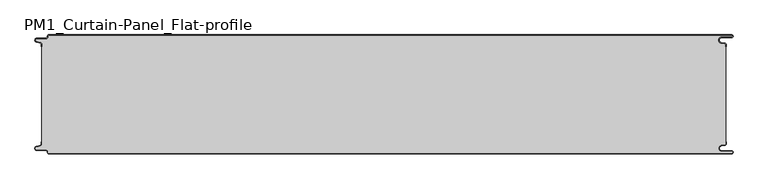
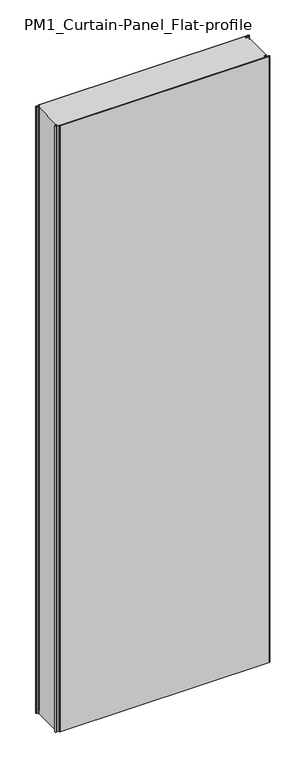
"""IFC4 building model written with IfcOpenShell, lengths in millimetres: plate geometry, PM1_Curtain-Panel_Flat-profile : ACH_PM1_Acoustic-Sectioning-Panel_200M."""

from ifc_helpers import new_model, si_unit, point, frame, frame_2d, origin, origin_with_axes, place, context, project, spatial, polyline, circle_curve, trimmed, segment, composite_curve, outline, extrude, source, transform, mapped, element, save
from ifc_brep_helpers import plane_surface, cylinder_surface, revolved_surface, advanced_brep


def pm1_curtain_panel_flat_profile_ed04c103(model_context):
    return source(origin(), model_context, "Body", "SolidModel", [
        advanced_brep(
        [(583.1, 0.0, 3500.0), (-562.4, 0.0, 3500.0), (-564.4, -2.0, 3500.0), (-564.4, -3.4, 3500.0), (-566.4, -5.4, 3500.0), (-581.9, -5.4, 3500.0), (-582.7098239, -12.5077322, 3500.0), (-576.5500979, -13.929817, 3500.0), (-575.0, -15.878557, 3500.0), (-575.0, -20.0, 3500.0), (-574.2, -20.0, 3500.0), (-574.2, -15.878557, 3500.0), (-576.370137, -13.1503208, 3500.0), (-582.529863, -11.728236, 3500.0), (-581.9, -6.2, 3500.0), (-566.4, -6.2, 3500.0), (-563.6, -3.4, 3500.0), (-563.6, -2.0, 3500.0), (-562.4, -0.8, 3500.0), (583.1, -0.8, 3500.0), (583.1, -4.2, 3500.0), (566.1, -4.2, 3500.0), (565.266489, -13.7270773, 3500.0), (571.7125666, -14.8636942, 3500.0), (573.2, -16.636348, 3500.0), (573.2, -20.0, 3500.0), (574.0, -20.0, 3500.0), (574.0, -16.636348, 3500.0), (571.8514851, -14.0758478, 3500.0), (565.4054075, -12.9392309, 3500.0), (566.1, -5.0, 3500.0), (583.1, -5.0, 3500.0), (585.6, -2.5, 3500.0), (-562.4, 0.0, 0.0), (583.1, 0.0, 0.0), (585.6, -2.5, 0.0), (583.1, -5.0, 0.0), (566.1, -5.0, 0.0), (565.4054075, -12.939231, 0.0), (571.8514851, -14.075848, 0.0), (574.0, -16.636348, 0.0), (574.0, -20.0, 0.0), (573.2, -20.0, 0.0), (573.2, -16.636348, 0.0), (571.7125666, -14.863694, 0.0), (565.266489, -13.7270771, 0.0), (566.1, -4.2, 0.0), (583.1, -4.2, 0.0), (583.1, -0.8, 0.0), (-562.4, -0.8, 0.0), (-563.6, -2.0, 0.0), (-563.6, -3.4, 0.0), (-566.4, -6.2, 0.0), (-581.9, -6.2, 0.0), (-582.529863, -11.7282362, 0.0), (-576.370137, -13.150321, 0.0), (-574.2, -15.878557, 0.0), (-574.2, -20.0, 0.0), (-575.0, -20.0, 0.0), (-575.0, -15.878557, 0.0), (-576.5500978, -13.9298169, 0.0), (-582.7098239, -12.507732, 0.0), (-581.9, -5.4, 0.0), (-566.4, -5.4, 0.0), (-564.4, -3.4, 0.0), (-564.4, -2.0, 0.0)],
        [
            (0, 1),
            (1, 2, circle_curve(frame((-562.4, -2.0, 3500.0), z_axis=(0.0, 0.0, 1.0), x_axis=(1.0, 0.0, 0.0)), 2.0)),
            (2, 3),
            (3, 4, circle_curve(frame((-566.4, -3.4, 3500.0), z_axis=(0.0, 0.0, -1.0), x_axis=(1.0, 0.0, 0.0)), 2.0)),
            (4, 5),
            (5, 6, circle_curve(frame((-581.9, -9.0, 3500.0), z_axis=(0.0, 0.0, 1.0), x_axis=(1.0, 0.0, 0.0)), 3.6)),
            (6, 7),
            (7, 8, circle_curve(frame((-577.0, -15.878557, 3500.0), z_axis=(0.0, 0.0, -1.0), x_axis=(1.0, 0.0, 0.0)), 2.0)),
            (8, 9),
            (9, 10),
            (10, 11),
            (11, 12, circle_curve(frame((-577.0, -15.878557, 3500.0), z_axis=(0.0, 0.0, 1.0), x_axis=(1.0, 0.0, 0.0)), 2.8)),
            (12, 13),
            (13, 14, circle_curve(frame((-581.9, -9.0, 3500.0), z_axis=(0.0, 0.0, -1.0), x_axis=(1.0, 0.0, 0.0)), 2.8)),
            (14, 15),
            (15, 16, circle_curve(frame((-566.4, -3.4, 3500.0), z_axis=(0.0, 0.0, 1.0), x_axis=(1.0, 0.0, 0.0)), 2.8)),
            (16, 17),
            (17, 18, circle_curve(frame((-562.4, -2.0, 3500.0), z_axis=(0.0, 0.0, -1.0), x_axis=(1.0, 0.0, 0.0)), 1.2)),
            (18, 19),
            (19, 20, circle_curve(frame((583.1, -2.5, 3500.0), z_axis=(0.0, 0.0, -1.0), x_axis=(1.0, 0.0, 0.0)), 1.7)),
            (20, 21),
            (21, 22, circle_curve(frame((566.1, -9.0, 3500.0), z_axis=(0.0, 0.0, 1.0), x_axis=(1.0, 0.0, 0.0)), 4.8)),
            (22, 23),
            (23, 24, circle_curve(frame((571.4, -16.636348, 3500.0), z_axis=(0.0, 0.0, -1.0), x_axis=(1.0, 0.0, 0.0)), 1.8)),
            (24, 25),
            (25, 26),
            (26, 27),
            (27, 28, circle_curve(frame((571.4, -16.636348, 3500.0), z_axis=(0.0, 0.0, 1.0), x_axis=(1.0, 0.0, 0.0)), 2.6)),
            (28, 29),
            (29, 30, circle_curve(frame((566.1, -9.0, 3500.0), z_axis=(0.0, 0.0, -1.0), x_axis=(1.0, 0.0, 0.0)), 4.0)),
            (30, 31),
            (31, 32, circle_curve(frame((583.1, -2.5, 3500.0), z_axis=(0.0, 0.0, 1.0), x_axis=(1.0, 0.0, 0.0)), 2.5)),
            (32, 0, circle_curve(frame((583.1, -2.5, 3500.0), z_axis=(0.0, 0.0, 1.0), x_axis=(1.0, 0.0, 0.0)), 2.5)),
            (33, 34),
            (34, 35, circle_curve(frame((583.1, -2.5, 0.0), z_axis=(0.0, 0.0, -1.0), x_axis=(1.0, 0.0, 0.0)), 2.5)),
            (35, 36, circle_curve(frame((583.1, -2.5, 0.0), z_axis=(0.0, 0.0, -1.0), x_axis=(1.0, 0.0, 0.0)), 2.5)),
            (36, 37),
            (37, 38, circle_curve(frame((566.1, -9.0, 0.0), z_axis=(0.0, 0.0, 1.0), x_axis=(1.0, 0.0, 0.0)), 4.0)),
            (38, 39),
            (39, 40, circle_curve(frame((571.4, -16.636348, 0.0), z_axis=(0.0, 0.0, -1.0), x_axis=(1.0, 0.0, 0.0)), 2.6)),
            (40, 41),
            (41, 42),
            (42, 43),
            (43, 44, circle_curve(frame((571.4, -16.636348, 0.0), z_axis=(0.0, 0.0, 1.0), x_axis=(1.0, 0.0, 0.0)), 1.8)),
            (44, 45),
            (45, 46, circle_curve(frame((566.1, -9.0, 0.0), z_axis=(0.0, 0.0, -1.0), x_axis=(1.0, 0.0, 0.0)), 4.8)),
            (46, 47),
            (47, 48, circle_curve(frame((583.1, -2.5, 0.0), z_axis=(0.0, 0.0, 1.0), x_axis=(1.0, 0.0, 0.0)), 1.7)),
            (48, 49),
            (49, 50, circle_curve(frame((-562.4, -2.0, 0.0), z_axis=(0.0, 0.0, 1.0), x_axis=(1.0, 0.0, 0.0)), 1.2)),
            (50, 51),
            (51, 52, circle_curve(frame((-566.4, -3.4, 0.0), z_axis=(0.0, 0.0, -1.0), x_axis=(1.0, 0.0, 0.0)), 2.8)),
            (52, 53),
            (53, 54, circle_curve(frame((-581.9, -9.0, 0.0), z_axis=(0.0, 0.0, 1.0), x_axis=(1.0, 0.0, 0.0)), 2.8)),
            (54, 55),
            (55, 56, circle_curve(frame((-577.0, -15.878557, 0.0), z_axis=(0.0, 0.0, -1.0), x_axis=(1.0, 0.0, 0.0)), 2.8)),
            (56, 57),
            (57, 58),
            (58, 59),
            (59, 60, circle_curve(frame((-577.0, -15.878557, 0.0), z_axis=(0.0, 0.0, 1.0), x_axis=(1.0, 0.0, 0.0)), 2.0)),
            (60, 61),
            (61, 62, circle_curve(frame((-581.9, -9.0, 0.0), z_axis=(0.0, 0.0, -1.0), x_axis=(1.0, 0.0, 0.0)), 3.6)),
            (62, 63),
            (63, 64, circle_curve(frame((-566.4, -3.4, 0.0), z_axis=(0.0, 0.0, 1.0), x_axis=(1.0, 0.0, 0.0)), 2.0)),
            (64, 65),
            (65, 33, circle_curve(frame((-562.4, -2.0, 0.0), z_axis=(0.0, 0.0, -1.0), x_axis=(1.0, 0.0, 0.0)), 2.0)),
            (1, 33),
            (65, 2),
            (64, 3),
            (63, 4),
            (62, 5),
            (61, 6),
            (60, 7),
            (59, 8),
            (58, 9),
            (57, 10),
            (56, 11),
            (55, 12),
            (54, 13),
            (53, 14),
            (52, 15),
            (51, 16),
            (50, 17),
            (49, 18),
            (48, 19),
            (47, 20),
            (46, 21),
            (45, 22),
            (44, 23),
            (43, 24),
            (42, 25),
            (41, 26),
            (40, 27),
            (39, 28),
            (38, 29),
            (37, 30),
            (36, 31),
            (34, 0),
        ],
        [
            plane_surface(frame((-575.0, 0.0, 3500.0), z_axis=(0.0, 0.0, 1.0), x_axis=(0.0, 1.0, 0.0))),
            plane_surface(frame((-575.0, 0.0, 0.0), z_axis=(0.0, 0.0, -1.0), x_axis=(0.0, 1.0, 0.0))),
            cylinder_surface(frame((-562.4, -2.0, 3500.0), z_axis=(0.0, 0.0, 1.0), x_axis=(1.0, 0.0, 0.0)), 2.0),
            plane_surface(frame((-564.4, -2.0, 3500.0), z_axis=(-1.0, 0.0, 0.0), x_axis=(0.0, 0.0, -1.0))),
            revolved_surface(polyline([(-564.4, -3.4, 0.0), (-564.4, -3.4, 3500.0)]), (-566.4, -3.4, 3500.0), (0.0, 0.0, -1.0)),
            plane_surface(frame((-566.4, -5.4, 3500.0), z_axis=(0.0, 1.0, 0.0), x_axis=(0.0, 0.0, -1.0))),
            cylinder_surface(frame((-581.9, -9.0, 3500.0), z_axis=(0.0, 0.0, 1.0), x_axis=(1.0, 0.0, 0.0)), 3.6),
            plane_surface(frame((-582.7098239, -12.507732, 3500.0), z_axis=(-0.2249510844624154, -0.9743700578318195, 0.0), x_axis=(0.0, 0.0, -1.0))),
            revolved_surface(polyline([(-575.0, -15.878557, 0.0), (-575.0, -15.878557, 3500.0)]), (-577.0, -15.878557, 3500.0), (0.0, 0.0, -1.0)),
            plane_surface(frame((-575.0, -15.878557, 3500.0), z_axis=(-1.0, 0.0, 0.0), x_axis=(0.0, 0.0, -1.0))),
            plane_surface(frame((-575.0, -20.0, 3500.0), z_axis=(0.0, -1.0, 0.0), x_axis=(0.0, 0.0, -1.0))),
            plane_surface(frame((-574.2, -20.0, 3500.0), z_axis=(1.0, 0.0, 0.0), x_axis=(0.0, 0.0, -1.0))),
            cylinder_surface(frame((-577.0, -15.878557, 3500.0), z_axis=(0.0, 0.0, 1.0), x_axis=(1.0, 0.0, 0.0)), 2.8),
            plane_surface(frame((-576.370137, -13.150321, 3500.0), z_axis=(0.22495108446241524, 0.9743700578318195, 0.0), x_axis=(0.0, 0.0, -1.0))),
            revolved_surface(polyline([(-579.1, -9.0, 0.0), (-579.1, -9.0, 3500.0)]), (-581.9, -9.0, 3500.0), (0.0, 0.0, -1.0)),
            plane_surface(frame((-581.9, -6.2, 3500.0), z_axis=(0.0, -1.0, 0.0), x_axis=(0.0, 0.0, -1.0))),
            cylinder_surface(frame((-566.4, -3.4, 3500.0), z_axis=(0.0, 0.0, 1.0), x_axis=(1.0, 0.0, 0.0)), 2.8),
            plane_surface(frame((-563.6, -3.4, 3500.0), z_axis=(1.0, 0.0, 0.0), x_axis=(0.0, 0.0, -1.0))),
            revolved_surface(polyline([(-561.1999999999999, -2.0, 0.0), (-561.1999999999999, -2.0, 3500.0)]), (-562.4, -2.0, 3500.0), (0.0, 0.0, -1.0)),
            plane_surface(frame((560.890897, -0.8, 3500.0), z_axis=(0.0, -1.0, 0.0), x_axis=(0.0, 0.0, -1.0))),
            revolved_surface(polyline([(584.8000000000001, -2.5, 0.0), (584.8000000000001, -2.5, 3500.0)]), (583.1, -2.5, 3500.0), (0.0, 0.0, -1.0)),
            plane_surface(frame((583.1, -4.2, 3500.0), z_axis=(0.0, 1.0, 0.0), x_axis=(0.0, 0.0, -1.0))),
            cylinder_surface(frame((566.1, -9.0, 3500.0), z_axis=(0.0, 0.0, 1.0), x_axis=(1.0, 0.0, 0.0)), 4.8),
            plane_surface(frame((565.266489, -13.7270771, 3500.0), z_axis=(-0.1736481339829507, -0.9848077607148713, 0.0), x_axis=(0.0, 0.0, -1.0))),
            revolved_surface(polyline([(573.1999999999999, -16.636348, 0.0), (573.1999999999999, -16.636348, 3500.0)]), (571.4, -16.636348, 3500.0), (0.0, 0.0, -1.0)),
            plane_surface(frame((573.2, -16.636348, 3500.0), z_axis=(-1.0, 0.0, 0.0), x_axis=(0.0, 0.0, -1.0))),
            plane_surface(frame((573.2, -20.0, 3500.0), z_axis=(0.0, -1.0, 0.0), x_axis=(0.0, 0.0, -1.0))),
            plane_surface(frame((574.0, -20.0, 3500.0), z_axis=(1.0, 0.0, 0.0), x_axis=(0.0, 0.0, -1.0))),
            cylinder_surface(frame((571.4, -16.636348, 3500.0), z_axis=(0.0, 0.0, 1.0), x_axis=(1.0, 0.0, 0.0)), 2.6),
            plane_surface(frame((571.8514851, -14.075848, 3500.0), z_axis=(0.17364813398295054, 0.9848077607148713, 0.0), x_axis=(0.0, 0.0, -1.0))),
            revolved_surface(polyline([(570.1, -9.0, 0.0), (570.1, -9.0, 3500.0)]), (566.1, -9.0, 3500.0), (0.0, 0.0, -1.0)),
            plane_surface(frame((566.1, -5.0, 3500.0), z_axis=(0.0, -1.0, 0.0), x_axis=(0.0, 0.0, -1.0))),
            cylinder_surface(frame((583.1, -2.5, 3500.0), z_axis=(0.0, 0.0, 1.0), x_axis=(1.0, 0.0, 0.0)), 2.5),
            plane_surface(frame((510.5961529, 0.0, 3500.0), z_axis=(0.0, 1.0, 0.0), x_axis=(0.0, 0.0, -1.0))),
        ],
        [
            (0, [[1, 2, 3, 4, 5, 6, 7, 8, 9, 10, 11, 12, 13, 14, 15, 16, 17, 18, 19, 20, 21, 22, 23, 24, 25, 26, 27, 28, 29, 30, 31, 32, 33]]),
            (1, [[34, 35, 36, 37, 38, 39, 40, 41, 42, 43, 44, 45, 46, 47, 48, 49, 50, 51, 52, 53, 54, 55, 56, 57, 58, 59, 60, 61, 62, 63, 64, 65, 66]]),
            (2, [[-2, 67, -66, 68]]),
            (3, [[-3, -68, -65, 69]]),
            (4, [[-4, -69, -64, 70]]),
            (5, [[-5, -70, -63, 71]]),
            (6, [[-6, -71, -62, 72]]),
            (7, [[-7, -72, -61, 73]]),
            (8, [[-8, -73, -60, 74]]),
            (9, [[-9, -74, -59, 75]]),
            (10, [[-10, -75, -58, 76]]),
            (11, [[-11, -76, -57, 77]]),
            (12, [[-12, -77, -56, 78]]),
            (13, [[-13, -78, -55, 79]]),
            (14, [[-14, -79, -54, 80]]),
            (15, [[-15, -80, -53, 81]]),
            (16, [[-16, -81, -52, 82]]),
            (17, [[-17, -82, -51, 83]]),
            (18, [[-18, -83, -50, 84]]),
            (19, [[-19, -84, -49, 85]]),
            (20, [[-20, -85, -48, 86]]),
            (21, [[-21, -86, -47, 87]]),
            (22, [[-22, -87, -46, 88]]),
            (23, [[-23, -88, -45, 89]]),
            (24, [[-24, -89, -44, 90]]),
            (25, [[-25, -90, -43, 91]]),
            (26, [[-26, -91, -42, 92]]),
            (27, [[-27, -92, -41, 93]]),
            (28, [[-28, -93, -40, 94]]),
            (29, [[-29, -94, -39, 95]]),
            (30, [[-30, -95, -38, 96]]),
            (31, [[-31, -96, -37, 97]]),
            (32, [[-97, -36, -35, 98, -33, -32]]),
            (33, [[-1, -98, -34, -67]]),
        ],
    ),
        extrude(outline(composite_curve([segment(polyline([(-574.2, -184.1214426), (-574.2, -15.8785573)]), True, "CONTINUOUS"), segment(trimmed(circle_curve(frame_2d((-577.0, -15.8785573)), 2.8), [point((-574.2, -15.8785573))], [point((-576.370137, -13.1503212))], True, "CARTESIAN"), True, "CONTINUOUS"), segment(polyline([(-576.370137, -13.1503212), (-582.5298631, -11.7282362)]), True, "CONTINUOUS"), segment(trimmed(circle_curve(frame_2d((-581.9, -9.0)), 2.8), [point((-582.5298631, -11.7282362))], [point((-581.9, -6.2))], False, "CARTESIAN"), True, "CONTINUOUS"), segment(polyline([(-581.9, -6.2), (-566.4000001, -6.2)]), True, "CONTINUOUS"), segment(trimmed(circle_curve(frame_2d((-566.4000001, -3.4)), 2.8), [point((-566.4000001, -6.2))], [point((-563.6000001, -3.4))], True, "CARTESIAN"), True, "CONTINUOUS"), segment(polyline([(-563.6000001, -3.4), (-563.6000001, -2.0)]), True, "CONTINUOUS"), segment(trimmed(circle_curve(frame_2d((-562.4000001, -2.0)), 1.2), [point((-563.6000001, -2.0))], [point((-562.4000001, -0.8))], False, "CARTESIAN"), True, "CONTINUOUS"), segment(polyline([(-562.4000001, -0.8), (583.1, -0.8)]), True, "CONTINUOUS"), segment(trimmed(circle_curve(frame_2d((583.1, -2.5)), 1.7), [point((583.1, -0.8))], [point((583.1, -4.2))], False, "CARTESIAN"), True, "CONTINUOUS"), segment(polyline([(583.1, -4.2), (566.1, -4.2)]), True, "CONTINUOUS"), segment(trimmed(circle_curve(frame_2d((566.1, -9.0)), 4.8), [point((566.1, -4.2))], [point((565.2664883, -13.7270771))], True, "CARTESIAN"), True, "CONTINUOUS"), segment(polyline([(565.2664883, -13.7270771), (571.7125668, -14.8636953)]), True, "CONTINUOUS"), segment(trimmed(circle_curve(frame_2d((571.4, -16.6363492)), 1.8), [point((571.7125668, -14.8636953))], [point((573.2, -16.6363492))], False, "CARTESIAN"), True, "CONTINUOUS"), segment(polyline([(573.2, -16.6363492), (573.2, -183.3636508)]), True, "CONTINUOUS"), segment(trimmed(circle_curve(frame_2d((571.4, -183.3636508)), 1.8), [point((573.2, -183.3636508))], [point((571.7125668, -185.1363047))], False, "CARTESIAN"), True, "CONTINUOUS"), segment(polyline([(571.7125668, -185.1363047), (565.2664883, -186.2729229)]), True, "CONTINUOUS"), segment(trimmed(circle_curve(frame_2d((566.1, -191.0)), 4.8), [point((565.2664883, -186.2729229))], [point((566.1, -195.8))], True, "CARTESIAN"), True, "CONTINUOUS"), segment(polyline([(566.1, -195.8), (583.1, -195.8)]), True, "CONTINUOUS"), segment(trimmed(circle_curve(frame_2d((583.1, -197.5)), 1.7), [point((583.1, -195.8))], [point((583.1, -199.2))], False, "CARTESIAN"), True, "CONTINUOUS"), segment(polyline([(583.1, -199.2), (-562.4000001, -199.2)]), True, "CONTINUOUS"), segment(trimmed(circle_curve(frame_2d((-562.4000001, -198.0)), 1.2), [point((-562.4000001, -199.2))], [point((-563.6000001, -198.0))], False, "CARTESIAN"), True, "CONTINUOUS"), segment(polyline([(-563.6000001, -198.0), (-563.6000001, -196.6)]), True, "CONTINUOUS"), segment(trimmed(circle_curve(frame_2d((-566.4000001, -196.6)), 2.8), [point((-563.6000001, -196.6))], [point((-566.4000001, -193.8))], True, "CARTESIAN"), True, "CONTINUOUS"), segment(polyline([(-566.4000001, -193.8), (-581.9, -193.8)]), True, "CONTINUOUS"), segment(trimmed(circle_curve(frame_2d((-581.9, -191.0)), 2.8), [point((-581.9, -193.8))], [point((-582.5298631, -188.2717638))], False, "CARTESIAN"), True, "CONTINUOUS"), segment(polyline([(-582.5298631, -188.2717638), (-576.370137, -186.8496788)]), True, "CONTINUOUS"), segment(trimmed(circle_curve(frame_2d((-577.0, -184.1214426)), 2.8), [point((-576.370137, -186.8496788))], [point((-574.2, -184.1214426))], True, "CARTESIAN"), True, "CONTINUOUS")], self_intersect=False)), origin_with_axes(), (0.0, 0.0, 1.0), 3500.0),
        advanced_brep(
        [(-562.4, -200.0, 3500.0), (583.1, -200.0, 3500.0), (585.6, -197.5, 3500.0), (583.1, -195.0, 3500.0), (566.1, -195.0, 3500.0), (565.4054075, -187.060769, 3500.0), (571.8514851, -185.924152, 3500.0), (574.0, -183.363652, 3500.0), (574.0, -180.0, 3500.0), (573.2, -180.0, 3500.0), (573.2, -183.363652, 3500.0), (571.7125666, -185.136306, 3500.0), (565.266489, -186.2729229, 3500.0), (566.1, -195.8, 3500.0), (583.1, -195.8, 3500.0), (583.1, -199.2, 3500.0), (-562.4, -199.2, 3500.0), (-563.6, -198.0, 3500.0), (-563.6, -196.6, 3500.0), (-566.4, -193.8, 3500.0), (-581.9, -193.8, 3500.0), (-582.529863, -188.2717638, 3500.0), (-576.370137, -186.849679, 3500.0), (-574.2, -184.121443, 3500.0), (-574.2, -180.0, 3500.0), (-575.0, -180.0, 3500.0), (-575.0, -184.121443, 3500.0), (-576.5500978, -186.0701831, 3500.0), (-582.7098239, -187.492268, 3500.0), (-581.9, -194.6, 3500.0), (-566.4, -194.6, 3500.0), (-564.4, -196.6, 3500.0), (-564.4, -198.0, 3500.0), (583.1, -200.0, 0.0), (-562.4, -200.0, 0.0), (-564.4, -198.0, 0.0), (-564.4, -196.6, 0.0), (-566.4, -194.6, 0.0), (-581.9, -194.6, 0.0), (-582.7098239, -187.4922678, 0.0), (-576.5500979, -186.070183, 0.0), (-575.0, -184.121443, 0.0), (-575.0, -180.0, 0.0), (-574.2, -180.0, 0.0), (-574.2, -184.121443, 0.0), (-576.370137, -186.8496792, 0.0), (-582.529863, -188.271764, 0.0), (-581.9, -193.8, 0.0), (-566.4, -193.8, 0.0), (-563.6, -196.6, 0.0), (-563.6, -198.0, 0.0), (-562.4, -199.2, 0.0), (583.1, -199.2, 0.0), (583.1, -195.8, 0.0), (566.1, -195.8, 0.0), (565.266489, -186.2729227, 0.0), (571.7125666, -185.1363058, 0.0), (573.2, -183.363652, 0.0), (573.2, -180.0, 0.0), (574.0, -180.0, 0.0), (574.0, -183.363652, 0.0), (571.8514851, -185.9241522, 0.0), (565.4054075, -187.0607691, 0.0), (566.1, -195.0, 0.0), (583.1, -195.0, 0.0), (585.6, -197.5, 0.0)],
        [
            (0, 1),
            (1, 2, circle_curve(frame((583.1, -197.5, 3500.0), z_axis=(0.0, 0.0, 1.0), x_axis=(1.0, 0.0, 0.0)), 2.5)),
            (2, 3, circle_curve(frame((583.1, -197.5, 3500.0), z_axis=(0.0, 0.0, 1.0), x_axis=(1.0, 0.0, 0.0)), 2.5)),
            (3, 4),
            (4, 5, circle_curve(frame((566.1, -191.0, 3500.0), z_axis=(0.0, 0.0, -1.0), x_axis=(1.0, 0.0, 0.0)), 4.0)),
            (5, 6),
            (6, 7, circle_curve(frame((571.4, -183.363652, 3500.0), z_axis=(0.0, 0.0, 1.0), x_axis=(1.0, 0.0, 0.0)), 2.6)),
            (7, 8),
            (8, 9),
            (9, 10),
            (10, 11, circle_curve(frame((571.4, -183.363652, 3500.0), z_axis=(0.0, 0.0, -1.0), x_axis=(1.0, 0.0, 0.0)), 1.8)),
            (11, 12),
            (12, 13, circle_curve(frame((566.1, -191.0, 3500.0), z_axis=(0.0, 0.0, 1.0), x_axis=(1.0, 0.0, 0.0)), 4.8)),
            (13, 14),
            (14, 15, circle_curve(frame((583.1, -197.5, 3500.0), z_axis=(0.0, 0.0, -1.0), x_axis=(1.0, 0.0, 0.0)), 1.7)),
            (15, 16),
            (16, 17, circle_curve(frame((-562.4, -198.0, 3500.0), z_axis=(0.0, 0.0, -1.0), x_axis=(1.0, 0.0, 0.0)), 1.2)),
            (17, 18),
            (18, 19, circle_curve(frame((-566.4, -196.6, 3500.0), z_axis=(0.0, 0.0, 1.0), x_axis=(1.0, 0.0, 0.0)), 2.8)),
            (19, 20),
            (20, 21, circle_curve(frame((-581.9, -191.0, 3500.0), z_axis=(0.0, 0.0, -1.0), x_axis=(1.0, 0.0, 0.0)), 2.8)),
            (21, 22),
            (22, 23, circle_curve(frame((-577.0, -184.121443, 3500.0), z_axis=(0.0, 0.0, 1.0), x_axis=(1.0, 0.0, 0.0)), 2.8)),
            (23, 24),
            (24, 25),
            (25, 26),
            (26, 27, circle_curve(frame((-577.0, -184.121443, 3500.0), z_axis=(0.0, 0.0, -1.0), x_axis=(1.0, 0.0, 0.0)), 2.0)),
            (27, 28),
            (28, 29, circle_curve(frame((-581.9, -191.0, 3500.0), z_axis=(0.0, 0.0, 1.0), x_axis=(1.0, 0.0, 0.0)), 3.6)),
            (29, 30),
            (30, 31, circle_curve(frame((-566.4, -196.6, 3500.0), z_axis=(0.0, 0.0, -1.0), x_axis=(1.0, 0.0, 0.0)), 2.0)),
            (31, 32),
            (32, 0, circle_curve(frame((-562.4, -198.0, 3500.0), z_axis=(0.0, 0.0, 1.0), x_axis=(1.0, 0.0, 0.0)), 2.0)),
            (33, 34),
            (34, 35, circle_curve(frame((-562.4, -198.0, 0.0), z_axis=(0.0, 0.0, -1.0), x_axis=(1.0, 0.0, 0.0)), 2.0)),
            (35, 36),
            (36, 37, circle_curve(frame((-566.4, -196.6, 0.0), z_axis=(0.0, 0.0, 1.0), x_axis=(1.0, 0.0, 0.0)), 2.0)),
            (37, 38),
            (38, 39, circle_curve(frame((-581.9, -191.0, 0.0), z_axis=(0.0, 0.0, -1.0), x_axis=(1.0, 0.0, 0.0)), 3.6)),
            (39, 40),
            (40, 41, circle_curve(frame((-577.0, -184.121443, 0.0), z_axis=(0.0, 0.0, 1.0), x_axis=(1.0, 0.0, 0.0)), 2.0)),
            (41, 42),
            (42, 43),
            (43, 44),
            (44, 45, circle_curve(frame((-577.0, -184.121443, 0.0), z_axis=(0.0, 0.0, -1.0), x_axis=(1.0, 0.0, 0.0)), 2.8)),
            (45, 46),
            (46, 47, circle_curve(frame((-581.9, -191.0, 0.0), z_axis=(0.0, 0.0, 1.0), x_axis=(1.0, 0.0, 0.0)), 2.8)),
            (47, 48),
            (48, 49, circle_curve(frame((-566.4, -196.6, 0.0), z_axis=(0.0, 0.0, -1.0), x_axis=(1.0, 0.0, 0.0)), 2.8)),
            (49, 50),
            (50, 51, circle_curve(frame((-562.4, -198.0, 0.0), z_axis=(0.0, 0.0, 1.0), x_axis=(1.0, 0.0, 0.0)), 1.2)),
            (51, 52),
            (52, 53, circle_curve(frame((583.1, -197.5, 0.0), z_axis=(0.0, 0.0, 1.0), x_axis=(1.0, 0.0, 0.0)), 1.7)),
            (53, 54),
            (54, 55, circle_curve(frame((566.1, -191.0, 0.0), z_axis=(0.0, 0.0, -1.0), x_axis=(1.0, 0.0, 0.0)), 4.8)),
            (55, 56),
            (56, 57, circle_curve(frame((571.4, -183.363652, 0.0), z_axis=(0.0, 0.0, 1.0), x_axis=(1.0, 0.0, 0.0)), 1.8)),
            (57, 58),
            (58, 59),
            (59, 60),
            (60, 61, circle_curve(frame((571.4, -183.363652, 0.0), z_axis=(0.0, 0.0, -1.0), x_axis=(1.0, 0.0, 0.0)), 2.6)),
            (61, 62),
            (62, 63, circle_curve(frame((566.1, -191.0, 0.0), z_axis=(0.0, 0.0, 1.0), x_axis=(1.0, 0.0, 0.0)), 4.0)),
            (63, 64),
            (64, 65, circle_curve(frame((583.1, -197.5, 0.0), z_axis=(0.0, 0.0, -1.0), x_axis=(1.0, 0.0, 0.0)), 2.5)),
            (65, 33, circle_curve(frame((583.1, -197.5, 0.0), z_axis=(0.0, 0.0, -1.0), x_axis=(1.0, 0.0, 0.0)), 2.5)),
            (0, 34),
            (33, 1),
            (64, 3),
            (63, 4),
            (62, 5),
            (61, 6),
            (60, 7),
            (59, 8),
            (58, 9),
            (57, 10),
            (56, 11),
            (55, 12),
            (54, 13),
            (53, 14),
            (52, 15),
            (51, 16),
            (50, 17),
            (49, 18),
            (48, 19),
            (47, 20),
            (46, 21),
            (45, 22),
            (44, 23),
            (43, 24),
            (42, 25),
            (41, 26),
            (40, 27),
            (39, 28),
            (38, 29),
            (37, 30),
            (36, 31),
            (35, 32),
        ],
        [
            plane_surface(frame((-575.0, -200.0, 3500.0), z_axis=(0.0, 0.0, 1.0), x_axis=(0.0, 1.0, 0.0))),
            plane_surface(frame((-575.0, -200.0, 0.0), z_axis=(0.0, 0.0, -1.0), x_axis=(0.0, 1.0, 0.0))),
            plane_surface(frame((560.890897, -200.0, 3500.0), z_axis=(0.0, -1.0, 0.0), x_axis=(0.0, 0.0, -1.0))),
            cylinder_surface(frame((583.1, -197.5, 3500.0), z_axis=(0.0, 0.0, 1.0), x_axis=(1.0, 0.0, 0.0)), 2.5),
            plane_surface(frame((583.1, -195.0, 3500.0), z_axis=(0.0, 1.0, 0.0), x_axis=(0.0, 0.0, -1.0))),
            revolved_surface(polyline([(570.1, -191.0, 0.0), (570.1, -191.0, 3500.0)]), (566.1, -191.0, 3500.0), (0.0, 0.0, -1.0)),
            plane_surface(frame((565.4054075, -187.0607691, 3500.0), z_axis=(0.17364813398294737, -0.9848077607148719, 0.0), x_axis=(0.0, 0.0, -1.0))),
            cylinder_surface(frame((571.4, -183.363652, 3500.0), z_axis=(0.0, 0.0, 1.0), x_axis=(1.0, 0.0, 0.0)), 2.6),
            plane_surface(frame((574.0, -183.363652, 3500.0), z_axis=(1.0, 0.0, 0.0), x_axis=(0.0, 0.0, -1.0))),
            plane_surface(frame((574.0, -180.0, 3500.0), z_axis=(0.0, 1.0, 0.0), x_axis=(0.0, 0.0, -1.0))),
            plane_surface(frame((573.2, -180.0, 3500.0), z_axis=(-1.0, 0.0, 0.0), x_axis=(0.0, 0.0, -1.0))),
            revolved_surface(polyline([(573.1999999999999, -183.363652, 0.0), (573.1999999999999, -183.363652, 3500.0)]), (571.4, -183.363652, 3500.0), (0.0, 0.0, -1.0)),
            plane_surface(frame((571.7125666, -185.1363058, 3500.0), z_axis=(-0.17364813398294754, 0.9848077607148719, 0.0), x_axis=(0.0, 0.0, -1.0))),
            cylinder_surface(frame((566.1, -191.0, 3500.0), z_axis=(0.0, 0.0, 1.0), x_axis=(1.0, 0.0, 0.0)), 4.8),
            plane_surface(frame((566.1, -195.8, 3500.0), z_axis=(0.0, -1.0, 0.0), x_axis=(0.0, 0.0, -1.0))),
            revolved_surface(polyline([(584.8000000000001, -197.5, 0.0), (584.8000000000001, -197.5, 3500.0)]), (583.1, -197.5, 3500.0), (0.0, 0.0, -1.0)),
            plane_surface(frame((510.8105122, -199.2, 3500.0), z_axis=(0.0, 1.0, 0.0), x_axis=(0.0, 0.0, -1.0))),
            revolved_surface(polyline([(-561.1999999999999, -198.0, 0.0), (-561.1999999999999, -198.0, 3500.0)]), (-562.4, -198.0, 3500.0), (0.0, 0.0, -1.0)),
            plane_surface(frame((-563.6, -198.0, 3500.0), z_axis=(1.0, 0.0, 0.0), x_axis=(0.0, 0.0, -1.0))),
            cylinder_surface(frame((-566.4, -196.6, 3500.0), z_axis=(0.0, 0.0, 1.0), x_axis=(1.0, 0.0, 0.0)), 2.8),
            plane_surface(frame((-566.4, -193.8, 3500.0), z_axis=(0.0, 1.0, 0.0), x_axis=(0.0, 0.0, -1.0))),
            revolved_surface(polyline([(-579.1, -191.0, 0.0), (-579.1, -191.0, 3500.0)]), (-581.9, -191.0, 3500.0), (0.0, 0.0, -1.0)),
            plane_surface(frame((-582.529863, -188.271764, 3500.0), z_axis=(0.2249510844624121, -0.9743700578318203, 0.0), x_axis=(0.0, 0.0, -1.0))),
            cylinder_surface(frame((-577.0, -184.121443, 3500.0), z_axis=(0.0, 0.0, 1.0), x_axis=(1.0, 0.0, 0.0)), 2.8),
            plane_surface(frame((-574.2, -184.121443, 3500.0), z_axis=(1.0, 0.0, 0.0), x_axis=(0.0, 0.0, -1.0))),
            plane_surface(frame((-574.2, -180.0, 3500.0), z_axis=(0.0, 1.0, 0.0), x_axis=(0.0, 0.0, -1.0))),
            plane_surface(frame((-575.0, -180.0, 3500.0), z_axis=(-1.0, 0.0, 0.0), x_axis=(0.0, 0.0, -1.0))),
            revolved_surface(polyline([(-575.0, -184.121443, 0.0), (-575.0, -184.121443, 3500.0)]), (-577.0, -184.121443, 3500.0), (0.0, 0.0, -1.0)),
            plane_surface(frame((-576.5500979, -186.070183, 3500.0), z_axis=(-0.22495108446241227, 0.9743700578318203, 0.0), x_axis=(0.0, 0.0, -1.0))),
            cylinder_surface(frame((-581.9, -191.0, 3500.0), z_axis=(0.0, 0.0, 1.0), x_axis=(1.0, 0.0, 0.0)), 3.6),
            plane_surface(frame((-581.9, -194.6, 3500.0), z_axis=(0.0, -1.0, 0.0), x_axis=(0.0, 0.0, -1.0))),
            revolved_surface(polyline([(-564.4, -196.6, 0.0), (-564.4, -196.6, 3500.0)]), (-566.4, -196.6, 3500.0), (0.0, 0.0, -1.0)),
            plane_surface(frame((-564.4, -196.6, 3500.0), z_axis=(-1.0, 0.0, 0.0), x_axis=(0.0, 0.0, -1.0))),
            cylinder_surface(frame((-562.4, -198.0, 3500.0), z_axis=(0.0, 0.0, 1.0), x_axis=(1.0, 0.0, 0.0)), 2.0),
        ],
        [
            (0, [[1, 2, 3, 4, 5, 6, 7, 8, 9, 10, 11, 12, 13, 14, 15, 16, 17, 18, 19, 20, 21, 22, 23, 24, 25, 26, 27, 28, 29, 30, 31, 32, 33]]),
            (1, [[34, 35, 36, 37, 38, 39, 40, 41, 42, 43, 44, 45, 46, 47, 48, 49, 50, 51, 52, 53, 54, 55, 56, 57, 58, 59, 60, 61, 62, 63, 64, 65, 66]]),
            (2, [[-1, 67, -34, 68]]),
            (3, [[-68, -66, -65, 69, -3, -2]]),
            (4, [[-4, -69, -64, 70]]),
            (5, [[-5, -70, -63, 71]]),
            (6, [[-6, -71, -62, 72]]),
            (7, [[-7, -72, -61, 73]]),
            (8, [[-8, -73, -60, 74]]),
            (9, [[-9, -74, -59, 75]]),
            (10, [[-10, -75, -58, 76]]),
            (11, [[-11, -76, -57, 77]]),
            (12, [[-12, -77, -56, 78]]),
            (13, [[-13, -78, -55, 79]]),
            (14, [[-14, -79, -54, 80]]),
            (15, [[-15, -80, -53, 81]]),
            (16, [[-16, -81, -52, 82]]),
            (17, [[-17, -82, -51, 83]]),
            (18, [[-18, -83, -50, 84]]),
            (19, [[-19, -84, -49, 85]]),
            (20, [[-20, -85, -48, 86]]),
            (21, [[-21, -86, -47, 87]]),
            (22, [[-22, -87, -46, 88]]),
            (23, [[-23, -88, -45, 89]]),
            (24, [[-24, -89, -44, 90]]),
            (25, [[-25, -90, -43, 91]]),
            (26, [[-26, -91, -42, 92]]),
            (27, [[-27, -92, -41, 93]]),
            (28, [[-28, -93, -40, 94]]),
            (29, [[-29, -94, -39, 95]]),
            (30, [[-30, -95, -38, 96]]),
            (31, [[-31, -96, -37, 97]]),
            (32, [[-32, -97, -36, 98]]),
            (33, [[-33, -98, -35, -67]]),
        ],
    ),
    ])


if __name__ == "__main__":
    model = new_model("IFC4")
    model_context = context("Model", 3, world=origin())
    ifc_project = project(units=[si_unit("LENGTHUNIT", "METRE", prefix="MILLI")], contexts=[model_context])
    site = spatial("IfcSite", under=ifc_project)
    building = spatial("IfcBuilding", under=site)
    placement = place(None, origin())
    pm1_curtain_panel_flat_profile_shape = pm1_curtain_panel_flat_profile_ed04c103(model_context)
    element("IfcPlate", 1, ObjectType="PM1_Curtain-Panel_Flat-profile : ACH_PM1_Acoustic-Sectioning-Panel_200M", at=placement, inside=building, context=model_context, shape_type="MappedRepresentation", body=[
        mapped(pm1_curtain_panel_flat_profile_shape, transform((0.0, 0.0, 0.0), x_axis=(1.0, 0.0, 0.0), y_axis=(0.0, 1.0, 0.0), z_axis=(0.0, 0.0, 1.0))),
    ])
    save(model, "model.ifc")
